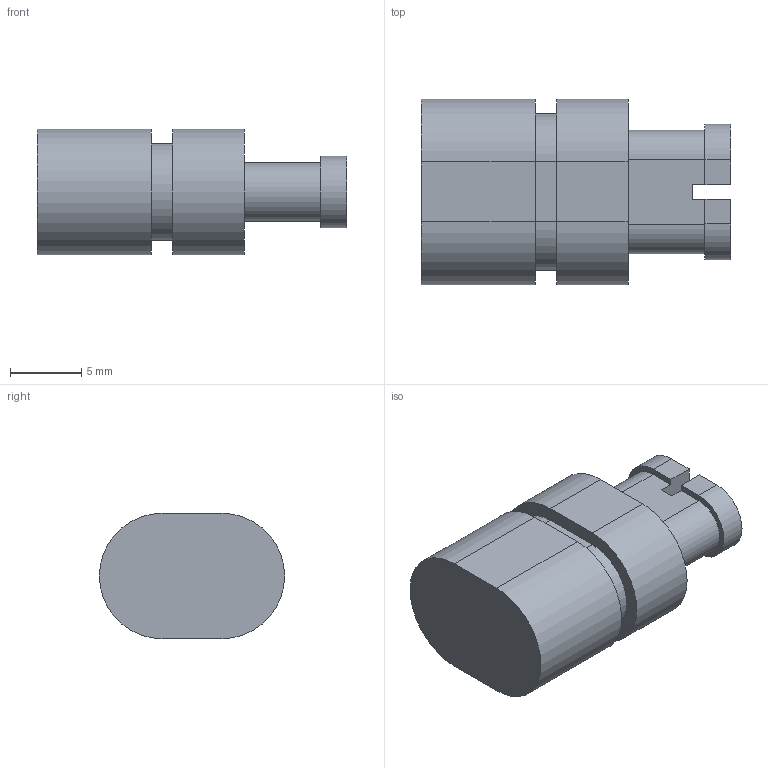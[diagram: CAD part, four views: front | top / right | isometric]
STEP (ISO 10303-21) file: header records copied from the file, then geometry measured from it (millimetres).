
FILE_DESCRIPTION( ( '' ), '1' );
FILE_NAME( 'C:/Users/dhek/Desktop/New folder/WL_L/9236926.stp', '2017-07-17T08:18:06', ( '' ), ( '' ), ' ', ' ', ' ' );
FILE_SCHEMA( ( 'automotive_design' ) );
Length unit declared in the file: millimetre
Products named in the file (1): 1
Bounding box: 21.7 x 13 x 8.8 mm (x, y, z)
Volume: 1603.7 mm3; surface area: 976.5 mm2
Topology: 1 solids, 1 shells, 33 faces, 84 edges, 56 vertices
Faces by surface type: plane 23, cylinder 10
Entity records: 1986 total; most frequent: STYLED_ITEM 174, PRESENTATION_STYLE_ASSIGNMENT 174, CARTESIAN_POINT 174, COLOUR_RGB 174, DIRECTION 172, ORIENTED_EDGE 168, EDGE_CURVE 84, CURVE_STYLE 84
